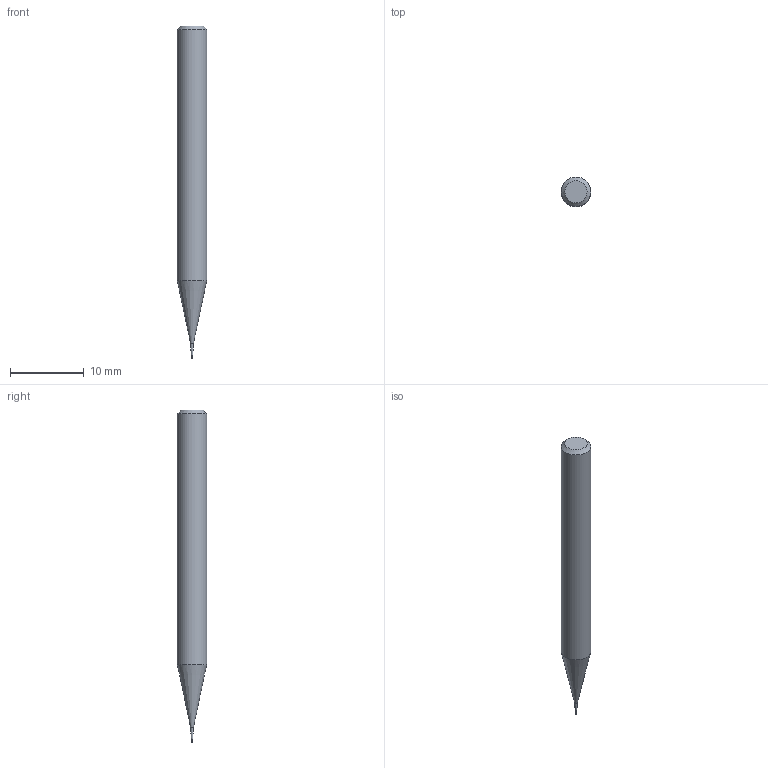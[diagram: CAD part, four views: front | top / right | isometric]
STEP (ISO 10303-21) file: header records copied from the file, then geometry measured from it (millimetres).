
FILE_DESCRIPTION((''),'2;1');
FILE_NAME('C:\Users\nsx150\AppData\Local\Temp\Mastercam 2021\YKS1SUSFZB\TEMP.step','2025-06-23T14:02:58',(''),(''),'STEP Write','Mastercam 2021 ... CNC Software, Inc.','');
FILE_SCHEMA(('AUTOMOTIVE_DESIGN'));
Length unit declared in the file: millimetre
Products named in the file (1): None
Bounding box: 4 x 4 x 45 mm (x, y, z)
Volume: 471.7 mm3; surface area: 503.9 mm2
Topology: 2 solids, 2 shells, 11 faces, 16 edges, 9 vertices
Faces by surface type: plane 4, cylinder 3, cone 3, torus 1
Full cylindrical faces by diameter (mm): 0.192 x1, 0.2 x1, 4 x1
Entity records: 253 total; most frequent: DIRECTION 44, CARTESIAN_POINT 31, AXIS2_PLACEMENT_3D 22, ORIENTED_EDGE 18, EDGE_LOOP 18, STYLED_ITEM 14, ADVANCED_FACE 11, FACE_BOUND 11
